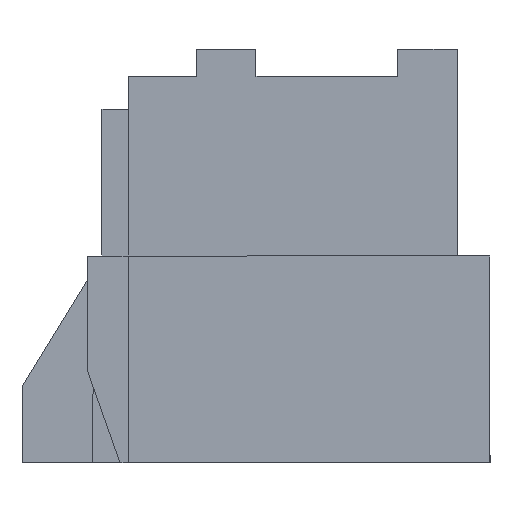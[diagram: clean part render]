
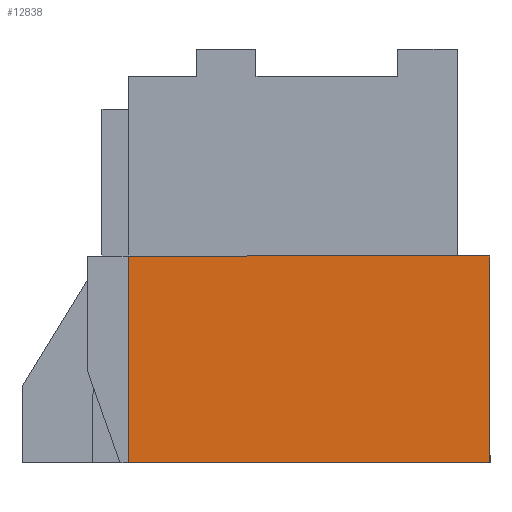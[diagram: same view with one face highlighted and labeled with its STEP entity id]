
A CAD part, left-side view. The second image highlights one B-rep face of the part: STEP entity #12838.
In plain terms, the highlighted planar face has unit normal (-1, 0, 0).
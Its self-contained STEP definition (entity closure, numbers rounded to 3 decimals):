
#10533 = DIRECTION ( 'NONE',  ( 0., 0., 1. ) ) ;
#10534 = VECTOR ( 'NONE', #10533, 1000. ) ;
#10535 = CARTESIAN_POINT ( 'NONE',  ( -23.8, 6.05, -7.6 ) ) ;
#10536 = LINE ( 'NONE', #10535, #10534 ) ;
#10557 = CARTESIAN_POINT ( 'NONE',  ( -23.8, 6.05, -7.6 ) ) ;
#10626 = CARTESIAN_POINT ( 'NONE',  ( -23.8, -0.6, -7.6 ) ) ;
#10627 = DIRECTION ( 'NONE',  ( 0., 0., -1. ) ) ;
#10628 = VECTOR ( 'NONE', #10627, 1000. ) ;
#10629 = CARTESIAN_POINT ( 'NONE',  ( -23.8, -0.6, -3.8 ) ) ;
#10633 = LINE ( 'NONE', #10629, #10628 ) ;
#10871 = DIRECTION ( 'NONE',  ( 0., 1., 0. ) ) ;
#10872 = VECTOR ( 'NONE', #10871, 1000. ) ;
#10873 = CARTESIAN_POINT ( 'NONE',  ( -23.8, -0.6, -7.6 ) ) ;
#10874 = LINE ( 'NONE', #10873, #10872 ) ;
#11403 = CARTESIAN_POINT ( 'NONE',  ( -23.8, -0.6, -3.8 ) ) ;
#11404 = DIRECTION ( 'NONE',  ( 0., -1., 0. ) ) ;
#11405 = VECTOR ( 'NONE', #11404, 1000. ) ;
#11406 = CARTESIAN_POINT ( 'NONE',  ( -23.8, 6.05, -3.8 ) ) ;
#11407 = LINE ( 'NONE', #11406, #11405 ) ;
#11408 = CARTESIAN_POINT ( 'NONE',  ( -23.8, 6.05, -3.8 ) ) ;
#11506 = DIRECTION ( 'NONE',  ( 0., -1., 0. ) ) ;
#11507 = DIRECTION ( 'NONE',  ( 1., 0., 0. ) ) ;
#11508 = CARTESIAN_POINT ( 'NONE',  ( -23.8, 6.05, -3.8 ) ) ;
#11510 = AXIS2_PLACEMENT_3D ( 'NONE', #11508, #11507, #11506 ) ;
#11511 = PLANE ( 'NONE',  #11510 ) ;
#11512 = FACE_OUTER_BOUND ( 'NONE', #12755, .T. ) ;
#12251 = EDGE_CURVE ( 'NONE', #12275, #12808, #10536, .T. ) ;
#12275 = VERTEX_POINT ( 'NONE', #10557 ) ;
#12304 = EDGE_CURVE ( 'NONE', #12811, #12305, #10633, .T. ) ;
#12305 = VERTEX_POINT ( 'NONE', #10626 ) ;
#12469 = EDGE_CURVE ( 'NONE', #12305, #12275, #10874, .T. ) ;
#12755 = EDGE_LOOP ( 'NONE', ( #12756, #12757, #12758, #12759 ) ) ;
#12756 = ORIENTED_EDGE ( 'NONE', *, *, #12251, .F. ) ;
#12757 = ORIENTED_EDGE ( 'NONE', *, *, #12469, .F. ) ;
#12758 = ORIENTED_EDGE ( 'NONE', *, *, #12304, .F. ) ;
#12759 = ORIENTED_EDGE ( 'NONE', *, *, #12810, .F. ) ;
#12808 = VERTEX_POINT ( 'NONE', #11408 ) ;
#12810 = EDGE_CURVE ( 'NONE', #12808, #12811, #11407, .T. ) ;
#12811 = VERTEX_POINT ( 'NONE', #11403 ) ;
#12838 = ADVANCED_FACE ( 'NONE', ( #11512 ), #11511, .F. ) ;
